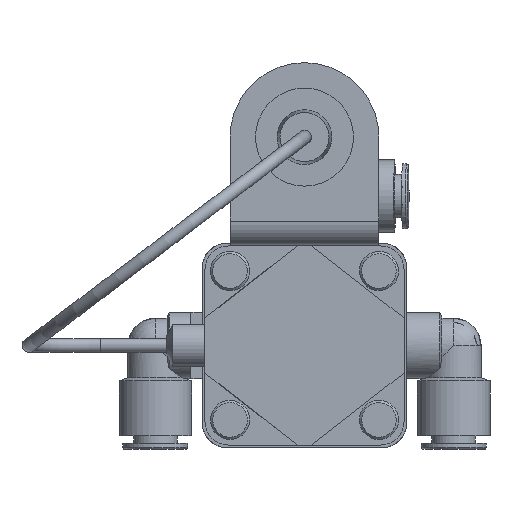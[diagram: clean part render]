
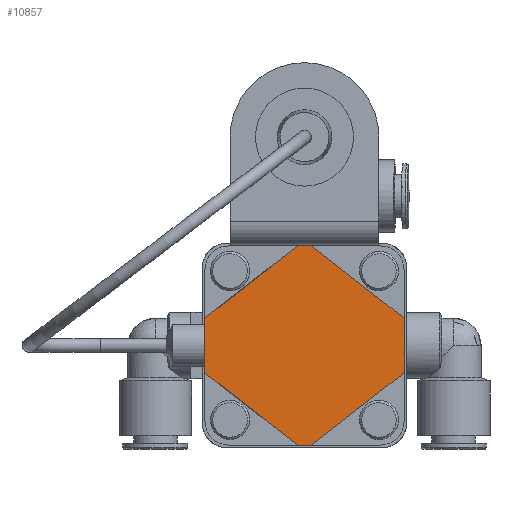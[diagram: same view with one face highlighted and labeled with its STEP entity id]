
A CAD part, front view. The second image highlights one B-rep face of the part: STEP entity #10857.
In plain terms, the highlighted planar face has unit normal (0, -1, 0).
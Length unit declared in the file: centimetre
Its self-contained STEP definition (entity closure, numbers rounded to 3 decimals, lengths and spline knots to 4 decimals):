
#1066=LINE('',#19258,#1809);
#1070=LINE('',#19267,#1813);
#1071=LINE('',#19269,#1814);
#1072=LINE('',#19270,#1815);
#1073=LINE('',#19272,#1816);
#1074=LINE('',#19274,#1817);
#1075=LINE('',#19276,#1818);
#1076=LINE('',#19277,#1819);
#1809=VECTOR('',#15365,1.);
#1813=VECTOR('',#15371,1.);
#1814=VECTOR('',#15372,1.);
#1815=VECTOR('',#15373,1.);
#1816=VECTOR('',#15374,1.);
#1817=VECTOR('',#15375,1.);
#1818=VECTOR('',#15376,1.);
#1819=VECTOR('',#15377,1.);
#2771=FACE_OUTER_BOUND('',#3532,.T.);
#3532=EDGE_LOOP('',(#9622,#9623,#9624,#9625,#9626,#9627,#9628,#9629));
#5111=VERTEX_POINT('',#19255);
#5112=VERTEX_POINT('',#19257);
#5115=VERTEX_POINT('',#19265);
#5116=VERTEX_POINT('',#19266);
#5117=VERTEX_POINT('',#19268);
#5118=VERTEX_POINT('',#19271);
#5119=VERTEX_POINT('',#19273);
#5120=VERTEX_POINT('',#19275);
#6630=EDGE_CURVE('',#5111,#5112,#1066,.T.);
#6634=EDGE_CURVE('',#5115,#5116,#1070,.T.);
#6635=EDGE_CURVE('',#5117,#5116,#1071,.T.);
#6636=EDGE_CURVE('',#5117,#5112,#1072,.T.);
#6637=EDGE_CURVE('',#5111,#5118,#1073,.T.);
#6638=EDGE_CURVE('',#5119,#5118,#1074,.T.);
#6639=EDGE_CURVE('',#5119,#5120,#1075,.T.);
#6640=EDGE_CURVE('',#5115,#5120,#1076,.T.);
#9622=ORIENTED_EDGE('',*,*,#6634,.T.);
#9623=ORIENTED_EDGE('',*,*,#6635,.F.);
#9624=ORIENTED_EDGE('',*,*,#6636,.T.);
#9625=ORIENTED_EDGE('',*,*,#6630,.F.);
#9626=ORIENTED_EDGE('',*,*,#6637,.T.);
#9627=ORIENTED_EDGE('',*,*,#6638,.F.);
#9628=ORIENTED_EDGE('',*,*,#6639,.T.);
#9629=ORIENTED_EDGE('',*,*,#6640,.F.);
#10205=PLANE('',#12172);
#10857=ADVANCED_FACE('',(#2771),#10205,.F.);
#12172=AXIS2_PLACEMENT_3D('',#19264,#15369,#15370);
#15365=DIRECTION('',(-1.,0.,0.));
#15369=DIRECTION('center_axis',(0.,1.,0.));
#15370=DIRECTION('ref_axis',(1.,0.,0.));
#15371=DIRECTION('',(-0.788,0.,-0.616));
#15372=DIRECTION('',(0.,0.,1.));
#15373=DIRECTION('',(0.788,0.,-0.616));
#15374=DIRECTION('',(0.788,0.,0.616));
#15375=DIRECTION('',(0.,0.,-1.));
#15376=DIRECTION('',(-0.788,0.,0.616));
#15377=DIRECTION('',(1.,0.,0.));
#19255=CARTESIAN_POINT('',(0.1843,-34.355,-2.54));
#19257=CARTESIAN_POINT('',(-0.1843,-34.355,-2.54));
#19258=CARTESIAN_POINT('',(2.54,-34.355,-2.54));
#19264=CARTESIAN_POINT('Origin',(0.,-34.355,0.));
#19265=CARTESIAN_POINT('',(-0.1843,-34.355,2.54));
#19266=CARTESIAN_POINT('',(-2.54,-34.355,0.6995));
#19267=CARTESIAN_POINT('',(-0.7432,-34.355,2.1033));
#19268=CARTESIAN_POINT('',(-2.54,-34.355,-0.6995));
#19269=CARTESIAN_POINT('',(-2.54,-34.355,-2.54));
#19270=CARTESIAN_POINT('',(-0.7432,-34.355,-2.1033));
#19271=CARTESIAN_POINT('',(2.54,-34.355,-0.6995));
#19272=CARTESIAN_POINT('',(0.7432,-34.355,-2.1033));
#19273=CARTESIAN_POINT('',(2.54,-34.355,0.6995));
#19274=CARTESIAN_POINT('',(2.54,-34.355,2.54));
#19275=CARTESIAN_POINT('',(0.1843,-34.355,2.54));
#19276=CARTESIAN_POINT('',(0.7432,-34.355,2.1033));
#19277=CARTESIAN_POINT('',(-2.54,-34.355,2.54));
